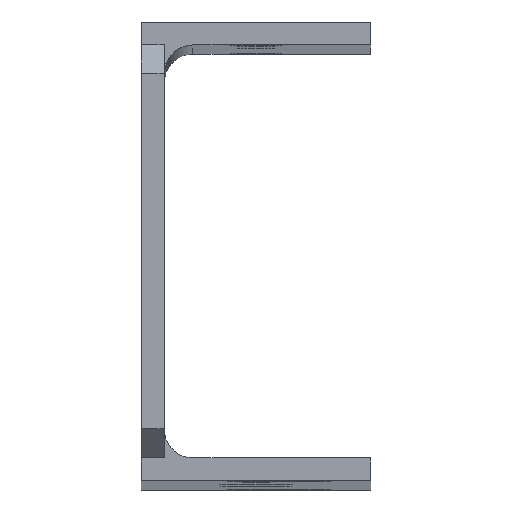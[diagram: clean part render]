
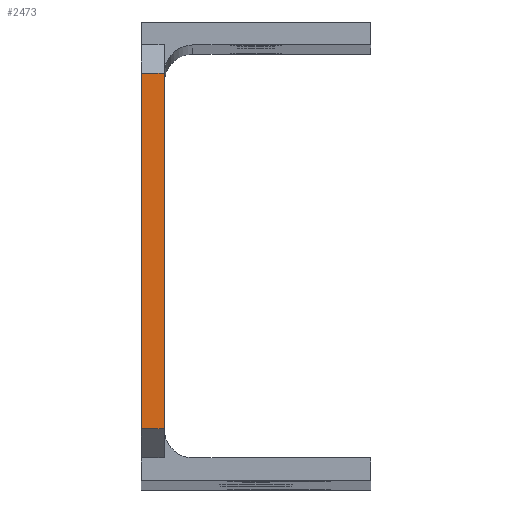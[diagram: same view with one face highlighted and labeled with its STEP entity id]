
A CAD part, top view. The second image highlights one B-rep face of the part: STEP entity #2473.
In plain terms, the highlighted planar face has unit normal (0, 0, 1).
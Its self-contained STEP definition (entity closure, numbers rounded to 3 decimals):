
#86 = PLANE ( 'NONE',  #2316 ) ;
#275 = VERTEX_POINT ( 'NONE', #1713 ) ;
#295 = VERTEX_POINT ( 'NONE', #3093 ) ;
#330 = DIRECTION ( 'NONE',  ( -1., 0., 0. ) ) ;
#667 = EDGE_CURVE ( 'NONE', #2709, #275, #1191, .T. ) ;
#706 = ORIENTED_EDGE ( 'NONE', *, *, #3044, .T. ) ;
#782 = CARTESIAN_POINT ( 'NONE',  ( 0., 9., 992. ) ) ;
#1021 = EDGE_CURVE ( 'NONE', #2709, #295, #1672, .T. ) ;
#1191 = LINE ( 'NONE', #2589, #3248 ) ;
#1193 = DIRECTION ( 'NONE',  ( 0., 0., 1. ) ) ;
#1293 = VECTOR ( 'NONE', #1606, 1000. ) ;
#1328 = ORIENTED_EDGE ( 'NONE', *, *, #667, .T. ) ;
#1362 = EDGE_CURVE ( 'NONE', #3518, #295, #2033, .T. ) ;
#1606 = DIRECTION ( 'NONE',  ( 0., 1., 0. ) ) ;
#1672 = LINE ( 'NONE', #2192, #2833 ) ;
#1713 = CARTESIAN_POINT ( 'NONE',  ( 4., 9., 992. ) ) ;
#1732 = CARTESIAN_POINT ( 'NONE',  ( 0., 71., 992. ) ) ;
#1761 = DIRECTION ( 'NONE',  ( 1., 0., 0. ) ) ;
#1886 = LINE ( 'NONE', #3000, #1293 ) ;
#2033 = LINE ( 'NONE', #1732, #2827 ) ;
#2036 = EDGE_LOOP ( 'NONE', ( #2894, #1328, #706, #2369 ) ) ;
#2192 = CARTESIAN_POINT ( 'NONE',  ( 0., 0., 992. ) ) ;
#2240 = DIRECTION ( 'NONE',  ( 0., 1., 0. ) ) ;
#2316 = AXIS2_PLACEMENT_3D ( 'NONE', #3442, #1193, #2900 ) ;
#2369 = ORIENTED_EDGE ( 'NONE', *, *, #1362, .T. ) ;
#2415 = CARTESIAN_POINT ( 'NONE',  ( 4., 71., 992. ) ) ;
#2473 = ADVANCED_FACE ( 'NONE', ( #3452 ), #86, .T. ) ;
#2589 = CARTESIAN_POINT ( 'NONE',  ( 4., 9., 992. ) ) ;
#2709 = VERTEX_POINT ( 'NONE', #782 ) ;
#2827 = VECTOR ( 'NONE', #330, 1000. ) ;
#2833 = VECTOR ( 'NONE', #2240, 1000. ) ;
#2894 = ORIENTED_EDGE ( 'NONE', *, *, #1021, .F. ) ;
#2900 = DIRECTION ( 'NONE',  ( 1., 0., 0. ) ) ;
#3000 = CARTESIAN_POINT ( 'NONE',  ( 4., 0., 992. ) ) ;
#3044 = EDGE_CURVE ( 'NONE', #275, #3518, #1886, .T. ) ;
#3093 = CARTESIAN_POINT ( 'NONE',  ( 0., 71., 992. ) ) ;
#3248 = VECTOR ( 'NONE', #1761, 1000. ) ;
#3442 = CARTESIAN_POINT ( 'NONE',  ( 0., 0., 992. ) ) ;
#3452 = FACE_OUTER_BOUND ( 'NONE', #2036, .T. ) ;
#3518 = VERTEX_POINT ( 'NONE', #2415 ) ;
